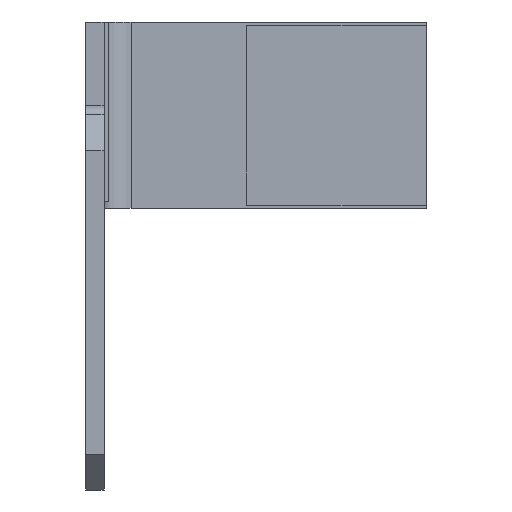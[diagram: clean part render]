
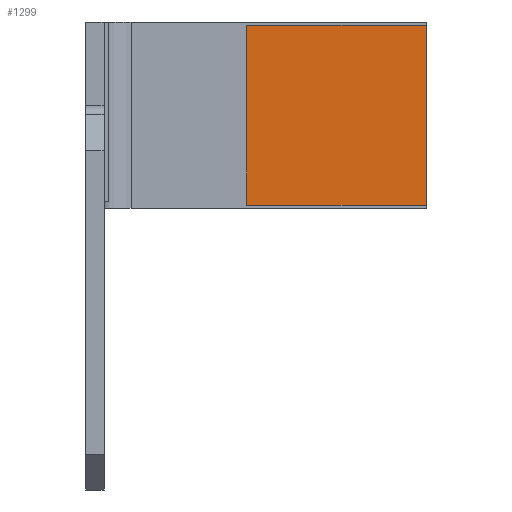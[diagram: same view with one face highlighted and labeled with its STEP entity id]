
A CAD part, left-side view. The second image highlights one B-rep face of the part: STEP entity #1299.
In plain terms, the highlighted planar face has unit normal (-1, 0, 0) as drawn and (0, 0, -1) by its records, which use the part's own axes.
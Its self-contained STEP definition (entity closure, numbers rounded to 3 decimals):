
#76 = EDGE_LOOP ( 'NONE', ( #591, #375, #193, #257 ) ) ;
#193 = ORIENTED_EDGE ( 'NONE', *, *, #1522, .F. ) ;
#257 = ORIENTED_EDGE ( 'NONE', *, *, #1531, .F. ) ;
#258 = CARTESIAN_POINT ( 'NONE',  ( 20., 0., -0.5 ) ) ;
#375 = ORIENTED_EDGE ( 'NONE', *, *, #1507, .F. ) ;
#410 = CARTESIAN_POINT ( 'NONE',  ( 0., 20., -0.5 ) ) ;
#427 = CARTESIAN_POINT ( 'NONE',  ( 0., 0., -0.5 ) ) ;
#521 = VERTEX_POINT ( 'NONE', #906 ) ;
#527 = VERTEX_POINT ( 'NONE', #258 ) ;
#543 = DIRECTION ( 'NONE',  ( -1., 0., 0. ) ) ;
#544 = PLANE ( 'NONE',  #856 ) ;
#553 = LINE ( 'NONE', #854, #642 ) ;
#591 = ORIENTED_EDGE ( 'NONE', *, *, #1485, .F. ) ;
#594 = VERTEX_POINT ( 'NONE', #410 ) ;
#642 = VECTOR ( 'NONE', #827, 1000. ) ;
#718 = VECTOR ( 'NONE', #1466, 1000. ) ;
#750 = DIRECTION ( 'NONE',  ( 0., -1., 0. ) ) ;
#754 = CARTESIAN_POINT ( 'NONE',  ( 0., 0., -0.5 ) ) ;
#785 = FACE_OUTER_BOUND ( 'NONE', #76, .T. ) ;
#827 = DIRECTION ( 'NONE',  ( -1., 0., 0. ) ) ;
#854 = CARTESIAN_POINT ( 'NONE',  ( 0., 20., -0.5 ) ) ;
#856 = AXIS2_PLACEMENT_3D ( 'NONE', #427, #965, #543 ) ;
#899 = LINE ( 'NONE', #1471, #1006 ) ;
#906 = CARTESIAN_POINT ( 'NONE',  ( 0., 0., -0.5 ) ) ;
#942 = LINE ( 'NONE', #1453, #718 ) ;
#965 = DIRECTION ( 'NONE',  ( 0., 0., -1. ) ) ;
#1006 = VECTOR ( 'NONE', #1015, 1000. ) ;
#1015 = DIRECTION ( 'NONE',  ( 1., 0., 0. ) ) ;
#1129 = VECTOR ( 'NONE', #750, 1000. ) ;
#1149 = VERTEX_POINT ( 'NONE', #1432 ) ;
#1299 = ADVANCED_FACE ( 'NONE', ( #785 ), #544, .T. ) ;
#1432 = CARTESIAN_POINT ( 'NONE',  ( 20., 20., -0.5 ) ) ;
#1453 = CARTESIAN_POINT ( 'NONE',  ( 20., 0., -0.5 ) ) ;
#1466 = DIRECTION ( 'NONE',  ( 0., 1., 0. ) ) ;
#1471 = CARTESIAN_POINT ( 'NONE',  ( 0., 0., -0.5 ) ) ;
#1473 = LINE ( 'NONE', #754, #1129 ) ;
#1485 = EDGE_CURVE ( 'NONE', #594, #521, #1473, .T. ) ;
#1507 = EDGE_CURVE ( 'NONE', #1149, #594, #553, .T. ) ;
#1522 = EDGE_CURVE ( 'NONE', #527, #1149, #942, .T. ) ;
#1531 = EDGE_CURVE ( 'NONE', #521, #527, #899, .T. ) ;
